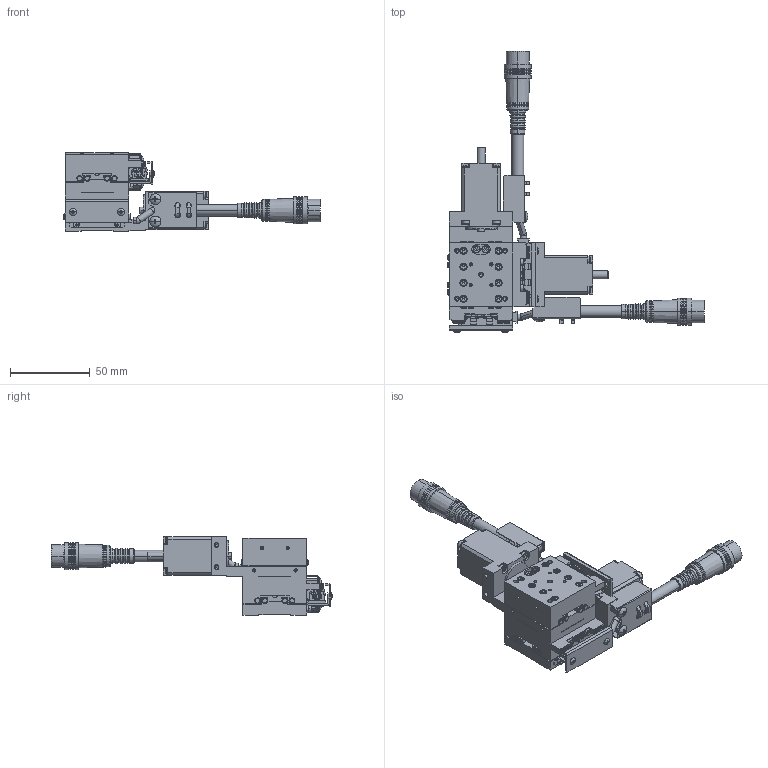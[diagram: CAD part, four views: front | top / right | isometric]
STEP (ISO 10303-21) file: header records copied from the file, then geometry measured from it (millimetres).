
FILE_DESCRIPTION (( 'STEP AP203' ), '1' );
FILE_NAME ('YA04A-R201-RRR.STEP', '2019-02-26T08:45:02', ( '' ), ( '' ), 'SwSTEP 2.0', 'SolidWorks 2018', '' );
FILE_SCHEMA (( 'CONFIG_CONTROL_DESIGN' ));
Length unit declared in the file: millimetre
Products named in the file (10): base-Part-3; YA04A-R201-RRR; base-Part-2; second table-Part-1; second table-Part-2; table; second table; base; second table-Part-3; base-Part-1
Assembly tree (9 placements, depth 3):
  YA04A-R201-RRR
    second table
      second table-Part-1
      second table-Part-2
      second table-Part-3
    base
      base-Part-1
      base-Part-2
      base-Part-3
    table
Bounding box: 161 x 176.18 x 49 mm (x, y, z)
Volume: 152382.3 mm3; surface area: 67009.2 mm2
Topology: 7 solids, 7 shells, 3541 faces, 8566 edges, 5126 vertices
Faces by surface type: plane 2107, cylinder 682, cone 612, torus 88, sphere 52
Entity records: 102636 total; most frequent: DIRECTION 18244, CARTESIAN_POINT 18129, ORIENTED_EDGE 16748, EDGE_CURVE 8374, AXIS2_PLACEMENT_3D 6517, LINE 5210, VECTOR 5210, VERTEX_POINT 5114
